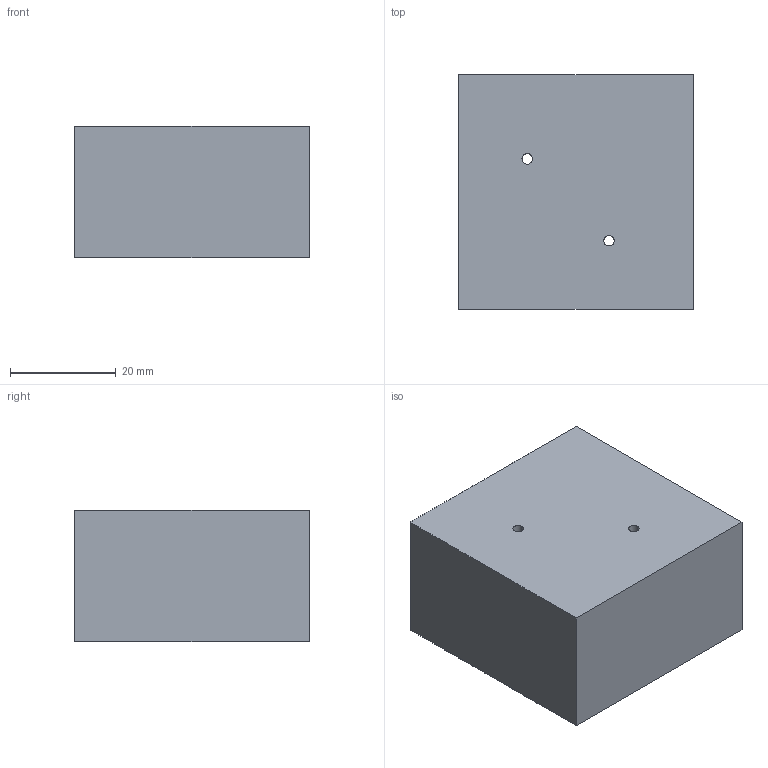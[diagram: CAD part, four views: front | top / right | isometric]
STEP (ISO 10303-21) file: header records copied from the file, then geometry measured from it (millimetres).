
FILE_DESCRIPTION (( 'STEP AP203' ), '1' );
FILE_NAME ('FT100ES04.STEP', '2026-06-26T01:16:52', ( 'USER' ), ( '' ), 'SwSTEP 2.0', 'SolidWorks 2023', '' );
FILE_SCHEMA (( 'CONFIG_CONTROL_DESIGN' ));
Length unit declared in the file: millimetre
Products named in the file (1): FT100ES04
Bounding box: 44.5 x 44.5 x 25 mm (x, y, z)
Volume: 43660.5 mm3; surface area: 10268.4 mm2
Topology: 1 solids, 1 shells, 40 faces, 95 edges, 55 vertices
Faces by surface type: cylinder 22, plane 10, cone 8
Entity records: 1346 total; most frequent: CARTESIAN_POINT 352, DIRECTION 192, ORIENTED_EDGE 190, EDGE_CURVE 95, AXIS2_PLACEMENT_3D 75, VERTEX_POINT 55, EDGE_LOOP 48, VECTOR 42
